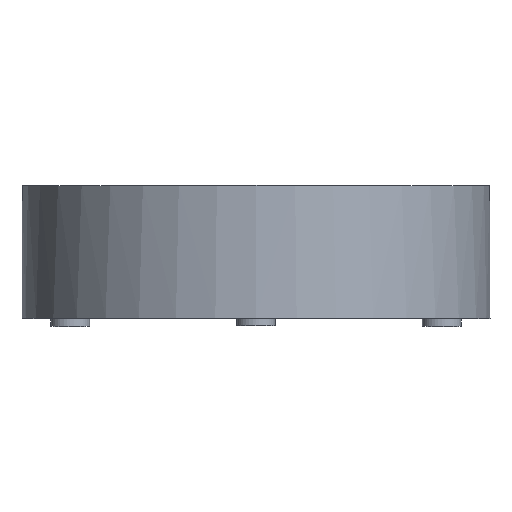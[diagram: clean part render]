
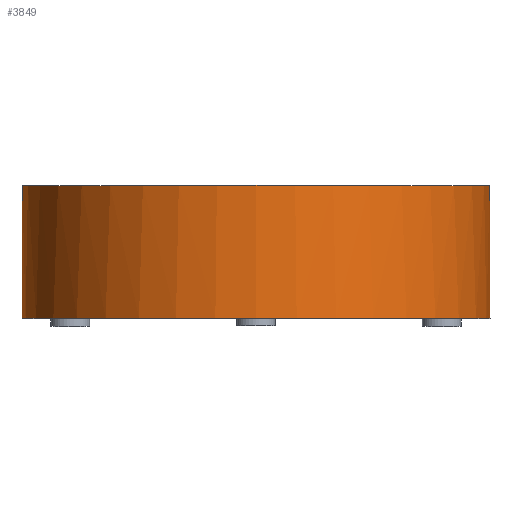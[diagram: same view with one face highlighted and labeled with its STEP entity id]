
A CAD part, top view. The second image highlights one B-rep face of the part: STEP entity #3849.
In plain terms, the highlighted cylindrical face has radius 30 mm (diameter 60 mm), a full revolution.
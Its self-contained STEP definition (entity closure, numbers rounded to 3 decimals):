
#588=FACE_OUTER_BOUND('',#798,.T.);
#798=EDGE_LOOP('',(#2951,#2952,#2953,#2954,#2955,#2956,#2957,#2958,#2959));
#1014=LINE('',#12980,#1198);
#1015=LINE('',#12984,#1199);
#1016=LINE('',#12988,#1200);
#1198=VECTOR('',#4785,30.);
#1199=VECTOR('',#4788,1000.);
#1200=VECTOR('',#4791,1000.);
#1293=CIRCLE('',#4167,30.);
#1294=CIRCLE('',#4168,30.);
#1295=CIRCLE('',#4169,30.);
#1296=CIRCLE('',#4170,30.);
#1297=CIRCLE('',#4171,30.);
#1675=VERTEX_POINT('',#12976);
#1676=VERTEX_POINT('',#12977);
#1677=VERTEX_POINT('',#12979);
#1678=VERTEX_POINT('',#12981);
#1679=VERTEX_POINT('',#12983);
#1680=VERTEX_POINT('',#12985);
#1681=VERTEX_POINT('',#12987);
#2209=EDGE_CURVE('',#1675,#1676,#1293,.T.);
#2210=EDGE_CURVE('',#1676,#1677,#1014,.T.);
#2211=EDGE_CURVE('',#1678,#1677,#1294,.T.);
#2212=EDGE_CURVE('',#1678,#1679,#1015,.T.);
#2213=EDGE_CURVE('',#1680,#1679,#1295,.T.);
#2214=EDGE_CURVE('',#1680,#1681,#1016,.T.);
#2215=EDGE_CURVE('',#1677,#1681,#1296,.T.);
#2216=EDGE_CURVE('',#1676,#1675,#1297,.T.);
#2951=ORIENTED_EDGE('',*,*,#2209,.T.);
#2952=ORIENTED_EDGE('',*,*,#2210,.T.);
#2953=ORIENTED_EDGE('',*,*,#2211,.F.);
#2954=ORIENTED_EDGE('',*,*,#2212,.T.);
#2955=ORIENTED_EDGE('',*,*,#2213,.F.);
#2956=ORIENTED_EDGE('',*,*,#2214,.T.);
#2957=ORIENTED_EDGE('',*,*,#2215,.F.);
#2958=ORIENTED_EDGE('',*,*,#2210,.F.);
#2959=ORIENTED_EDGE('',*,*,#2216,.T.);
#3690=CYLINDRICAL_SURFACE('',#4166,30.);
#3849=ADVANCED_FACE('',(#588),#3690,.T.);
#4166=AXIS2_PLACEMENT_3D('',#12975,#4781,#4782);
#4167=AXIS2_PLACEMENT_3D('',#12978,#4783,#4784);
#4168=AXIS2_PLACEMENT_3D('',#12982,#4786,#4787);
#4169=AXIS2_PLACEMENT_3D('',#12986,#4789,#4790);
#4170=AXIS2_PLACEMENT_3D('',#12989,#4792,#4793);
#4171=AXIS2_PLACEMENT_3D('',#12990,#4794,#4795);
#4781=DIRECTION('center_axis',(0.,-1.,0.));
#4782=DIRECTION('ref_axis',(0.,0.,-1.));
#4783=DIRECTION('center_axis',(0.,1.,0.));
#4784=DIRECTION('ref_axis',(0.,0.,1.));
#4785=DIRECTION('',(0.,1.,0.));
#4786=DIRECTION('center_axis',(0.,1.,0.));
#4787=DIRECTION('ref_axis',(0.,0.,1.));
#4788=DIRECTION('',(0.,-1.,0.));
#4789=DIRECTION('center_axis',(0.,1.,0.));
#4790=DIRECTION('ref_axis',(0.,0.,1.));
#4791=DIRECTION('',(0.,1.,0.));
#4792=DIRECTION('center_axis',(0.,1.,0.));
#4793=DIRECTION('ref_axis',(0.,0.,1.));
#4794=DIRECTION('center_axis',(0.,1.,0.));
#4795=DIRECTION('ref_axis',(0.,0.,1.));
#12975=CARTESIAN_POINT('Origin',(0.,17.,0.));
#12976=CARTESIAN_POINT('',(0.,0.,-30.));
#12977=CARTESIAN_POINT('',(0.,0.,30.));
#12978=CARTESIAN_POINT('Origin',(0.,0.,0.));
#12979=CARTESIAN_POINT('',(0.,17.,30.));
#12980=CARTESIAN_POINT('',(0.,17.,30.));
#12981=CARTESIAN_POINT('',(-13.077,17.,-27.));
#12982=CARTESIAN_POINT('Origin',(0.,17.,0.));
#12983=CARTESIAN_POINT('',(-13.077,1.6,-27.));
#12984=CARTESIAN_POINT('',(-13.077,17.,-27.));
#12985=CARTESIAN_POINT('',(13.077,1.6,-27.));
#12986=CARTESIAN_POINT('Origin',(0.,1.6,0.));
#12987=CARTESIAN_POINT('',(13.077,17.,-27.));
#12988=CARTESIAN_POINT('',(13.077,17.,-27.));
#12989=CARTESIAN_POINT('Origin',(0.,17.,0.));
#12990=CARTESIAN_POINT('Origin',(0.,0.,0.));
